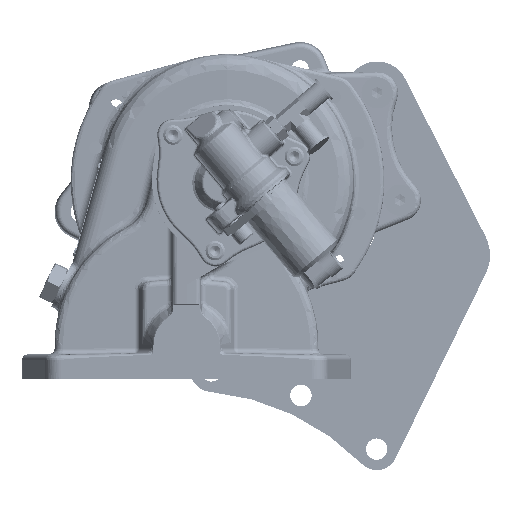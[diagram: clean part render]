
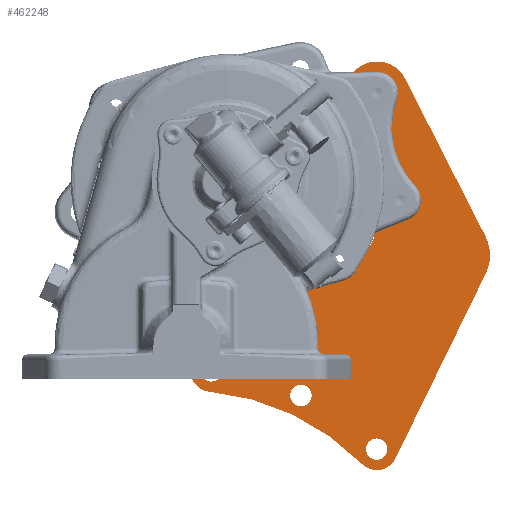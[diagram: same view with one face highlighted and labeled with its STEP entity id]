
A CAD part, left-side view. The second image highlights one B-rep face of the part: STEP entity #462248.
In plain terms, the highlighted planar face has unit normal (-1, 0, 0) as drawn and (0, 0, -1) by its records, which use the part's own axes.
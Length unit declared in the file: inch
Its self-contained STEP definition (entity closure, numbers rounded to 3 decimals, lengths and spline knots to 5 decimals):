
#461867=CARTESIAN_POINT('',(6.36035,1.90595,0.0));
#461868=VERTEX_POINT('',#461867);
#461869=CARTESIAN_POINT('',(6.10435,1.90595,0.0));
#461870=DIRECTION('',(0.0,0.0,1.0));
#461871=DIRECTION('',(-1.0,0.0,0.0));
#461872=AXIS2_PLACEMENT_3D('',#461869,#461870,#461871);
#461873=CIRCLE('',#461872,0.256);
#461874=EDGE_CURVE('',#461868,#461868,#461873,.T.);
#461887=CARTESIAN_POINT('',(5.34026,3.87892,0.0));
#461888=VERTEX_POINT('',#461887);
#461889=CARTESIAN_POINT('',(5.08426,3.87892,0.0));
#461890=DIRECTION('',(0.0,0.0,1.0));
#461891=DIRECTION('',(-1.0,0.0,0.0));
#461892=AXIS2_PLACEMENT_3D('',#461889,#461890,#461891);
#461893=CIRCLE('',#461892,0.256);
#461894=EDGE_CURVE('',#461888,#461888,#461893,.T.);
#461907=CARTESIAN_POINT('',(3.70697,5.38385,0.0));
#461908=VERTEX_POINT('',#461907);
#461909=CARTESIAN_POINT('',(3.45106,5.38385,0.0));
#461910=DIRECTION('',(0.0,0.0,1.0));
#461911=DIRECTION('',(-1.0,0.0,0.0));
#461912=AXIS2_PLACEMENT_3D('',#461909,#461910,#461911);
#461913=CIRCLE('',#461912,0.25591);
#461914=EDGE_CURVE('',#461908,#461908,#461913,.T.);
#461927=CARTESIAN_POINT('',(9.40988,7.16515,0.0));
#461928=VERTEX_POINT('',#461927);
#461929=CARTESIAN_POINT('',(9.15988,7.16515,0.0));
#461930=DIRECTION('',(0.0,0.0,1.0));
#461931=DIRECTION('',(-1.0,0.0,0.0));
#461932=AXIS2_PLACEMENT_3D('',#461929,#461930,#461931);
#461933=CIRCLE('',#461932,0.25);
#461934=EDGE_CURVE('',#461928,#461928,#461933,.T.);
#461947=CARTESIAN_POINT('',(12.03488,7.16515,0.0));
#461948=VERTEX_POINT('',#461947);
#461949=CARTESIAN_POINT('',(11.78488,7.16515,0.0));
#461950=DIRECTION('',(0.0,0.0,1.0));
#461951=DIRECTION('',(-1.0,0.0,0.0));
#461952=AXIS2_PLACEMENT_3D('',#461949,#461950,#461951);
#461953=CIRCLE('',#461952,0.25);
#461954=EDGE_CURVE('',#461948,#461948,#461953,.T.);
#461965=CARTESIAN_POINT('',(7.01547,8.80684,0.0));
#461966=VERTEX_POINT('',#461965);
#461973=CARTESIAN_POINT('',(3.143,5.77768,0.0));
#461974=VERTEX_POINT('',#461973);
#461975=CARTESIAN_POINT('',(3.143,5.77768,0.0));
#461976=DIRECTION('',(0.788,0.616,0.0));
#461977=VECTOR('',#461976,4.91649);
#461978=LINE('',#461975,#461977);
#461979=EDGE_CURVE('',#461974,#461966,#461978,.T.);
#461996=CARTESIAN_POINT('',(7.89041,8.98512,0.0));
#461997=VERTEX_POINT('',#461996);
#462004=CARTESIAN_POINT('',(7.63159,8.0192,0.0));
#462005=DIRECTION('',(0.0,0.0,-1.0));
#462006=DIRECTION('',(-0.259,-0.966,0.0));
#462007=AXIS2_PLACEMENT_3D('',#462004,#462005,#462006);
#462008=CIRCLE('',#462007,1.);
#462009=EDGE_CURVE('',#461966,#461997,#462008,.T.);
#462021=CARTESIAN_POINT('',(11.97899,7.88959,0.0));
#462022=VERTEX_POINT('',#462021);
#462029=CARTESIAN_POINT('',(7.89041,8.98512,0.0));
#462030=DIRECTION('',(0.966,-0.259,0.0));
#462031=VECTOR('',#462030,4.23281);
#462032=LINE('',#462029,#462031);
#462033=EDGE_CURVE('',#461997,#462022,#462032,.T.);
#462045=CARTESIAN_POINT('',(11.78488,6.41515,0.0));
#462046=VERTEX_POINT('',#462045);
#462053=CARTESIAN_POINT('',(11.78488,7.16515,0.0));
#462054=DIRECTION('',(0.0,0.0,-1.0));
#462055=DIRECTION('',(0.0,1.0,0.0));
#462056=AXIS2_PLACEMENT_3D('',#462053,#462054,#462055);
#462057=CIRCLE('',#462056,0.75);
#462058=EDGE_CURVE('',#462022,#462046,#462057,.T.);
#462070=CARTESIAN_POINT('',(8.62776,6.41515,0.0));
#462071=VERTEX_POINT('',#462070);
#462078=CARTESIAN_POINT('',(11.78488,6.41515,0.0));
#462079=DIRECTION('',(-1.0,0.0,0.0));
#462080=VECTOR('',#462079,3.15712);
#462081=LINE('',#462078,#462080);
#462082=EDGE_CURVE('',#462046,#462071,#462081,.T.);
#462094=CARTESIAN_POINT('',(8.15791,6.08616,0.0));
#462095=VERTEX_POINT('',#462094);
#462102=CARTESIAN_POINT('',(8.62776,5.91515,0.0));
#462103=DIRECTION('',(0.0,0.0,1.0));
#462104=DIRECTION('',(0.0,1.0,0.0));
#462105=AXIS2_PLACEMENT_3D('',#462102,#462103,#462104);
#462106=CIRCLE('',#462105,0.5);
#462107=EDGE_CURVE('',#462071,#462095,#462106,.T.);
#462119=CARTESIAN_POINT('',(6.57419,1.73494,0.0));
#462120=VERTEX_POINT('',#462119);
#462127=CARTESIAN_POINT('',(8.15791,6.08616,0.0));
#462128=DIRECTION('',(-0.342,-0.94,0.0));
#462129=VECTOR('',#462128,4.63047);
#462130=LINE('',#462127,#462129);
#462131=EDGE_CURVE('',#462095,#462120,#462130,.T.);
#462143=CARTESIAN_POINT('',(5.62707,1.75693,0.0));
#462144=VERTEX_POINT('',#462143);
#462151=CARTESIAN_POINT('',(6.10435,1.90595,0.0));
#462152=DIRECTION('',(0.0,0.0,-1.0));
#462153=DIRECTION('',(0.955,0.298,0.0));
#462154=AXIS2_PLACEMENT_3D('',#462151,#462152,#462153);
#462155=CIRCLE('',#462154,0.5);
#462156=EDGE_CURVE('',#462120,#462144,#462155,.T.);
#462168=CARTESIAN_POINT('',(3.18124,4.96291,0.0));
#462169=VERTEX_POINT('',#462168);
#462176=CARTESIAN_POINT('',(0.,0.,0.0));
#462177=DIRECTION('',(0.0,0.0,1.0));
#462178=DIRECTION('',(0.955,0.298,0.0));
#462179=AXIS2_PLACEMENT_3D('',#462176,#462177,#462178);
#462180=CIRCLE('',#462179,5.89497);
#462181=EDGE_CURVE('',#462144,#462169,#462180,.T.);
#462194=CARTESIAN_POINT('',(3.45106,5.38385,0.0));
#462195=DIRECTION('',(0.0,0.0,-1.0));
#462196=DIRECTION('',(0.375,-0.927,0.0));
#462197=AXIS2_PLACEMENT_3D('',#462194,#462195,#462196);
#462198=CIRCLE('',#462197,0.5);
#462199=EDGE_CURVE('',#462169,#461974,#462198,.T.);
#462216=CARTESIAN_POINT('',(7.46373,5.89323,0.0));
#462217=DIRECTION('',(0.0,0.0,1.0));
#462218=DIRECTION('',(1.0,0.0,0.0));
#462219=AXIS2_PLACEMENT_3D('',#462216,#462217,#462218);
#462220=PLANE('',#462219);
#462221=ORIENTED_EDGE('',*,*,#462199,.T.);
#462222=ORIENTED_EDGE('',*,*,#461979,.T.);
#462223=ORIENTED_EDGE('',*,*,#462009,.T.);
#462224=ORIENTED_EDGE('',*,*,#462033,.T.);
#462225=ORIENTED_EDGE('',*,*,#462058,.T.);
#462226=ORIENTED_EDGE('',*,*,#462082,.T.);
#462227=ORIENTED_EDGE('',*,*,#462107,.T.);
#462228=ORIENTED_EDGE('',*,*,#462131,.T.);
#462229=ORIENTED_EDGE('',*,*,#462156,.T.);
#462230=ORIENTED_EDGE('',*,*,#462181,.T.);
#462231=EDGE_LOOP('',(#462221,#462222,#462223,#462224,#462225,#462226,#462227,#462228,#462229,#462230));
#462232=FACE_OUTER_BOUND('',#462231,.T.);
#462233=ORIENTED_EDGE('',*,*,#461874,.T.);
#462234=EDGE_LOOP('',(#462233));
#462235=FACE_BOUND('',#462234,.T.);
#462236=ORIENTED_EDGE('',*,*,#461894,.T.);
#462237=EDGE_LOOP('',(#462236));
#462238=FACE_BOUND('',#462237,.T.);
#462239=ORIENTED_EDGE('',*,*,#461914,.T.);
#462240=EDGE_LOOP('',(#462239));
#462241=FACE_BOUND('',#462240,.T.);
#462242=ORIENTED_EDGE('',*,*,#461934,.T.);
#462243=EDGE_LOOP('',(#462242));
#462244=FACE_BOUND('',#462243,.T.);
#462245=ORIENTED_EDGE('',*,*,#461954,.T.);
#462246=EDGE_LOOP('',(#462245));
#462247=FACE_BOUND('',#462246,.T.);
#462248=ADVANCED_FACE('',(#462232,#462235,#462238,#462241,#462244,#462247),#462220,.F.);
